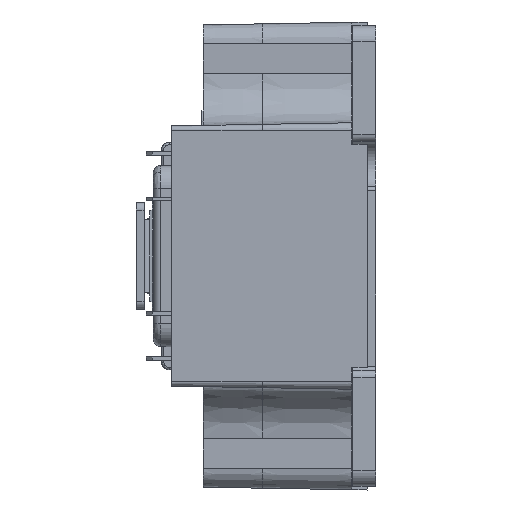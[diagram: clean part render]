
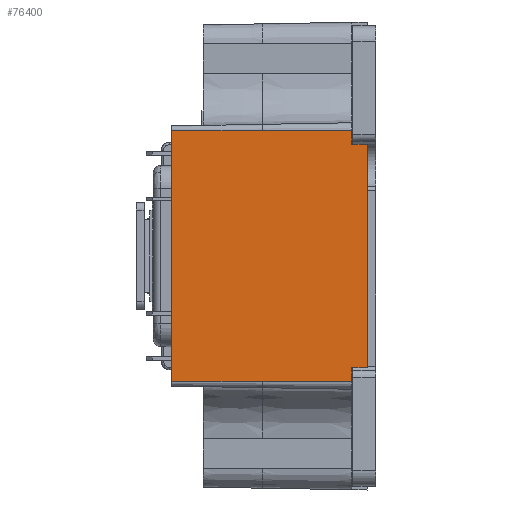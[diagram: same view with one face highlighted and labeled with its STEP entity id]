
A CAD part, left-side view. The second image highlights one B-rep face of the part: STEP entity #76400.
In plain terms, the highlighted planar face has unit normal (-1, 0.018, 0).
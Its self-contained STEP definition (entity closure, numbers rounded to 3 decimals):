
#827 = CARTESIAN_POINT ( 'NONE',  ( -53.235, 1.1, 12.02 ) ) ;
#2116 = VECTOR ( 'NONE', #16531, 1000. ) ;
#3255 = CARTESIAN_POINT ( 'NONE',  ( -53.2, 3.1, 16.5 ) ) ;
#5809 = CARTESIAN_POINT ( 'NONE',  ( -53.2, 3.1, 16.5 ) ) ;
#6253 = PLANE ( 'NONE',  #57920 ) ;
#8414 = ORIENTED_EDGE ( 'NONE', *, *, #66250, .T. ) ;
#8736 = ORIENTED_EDGE ( 'NONE', *, *, #39780, .T. ) ;
#8874 = CIRCLE ( 'NONE', #66620, 0.795 ) ;
#9252 = DIRECTION ( 'NONE',  ( 0., 0., 1. ) ) ;
#9642 = DIRECTION ( 'NONE',  ( 0., 0., 1. ) ) ;
#10403 = VECTOR ( 'NONE', #40062, 1000. ) ;
#12049 = CARTESIAN_POINT ( 'NONE',  ( -52.995, 14.85, 16.5 ) ) ;
#12130 = VERTEX_POINT ( 'NONE', #34443 ) ;
#12251 = LINE ( 'NONE', #28029, #10403 ) ;
#12338 = VECTOR ( 'NONE', #9642, 1000. ) ;
#15002 = LINE ( 'NONE', #21362, #73829 ) ;
#15466 = ORIENTED_EDGE ( 'NONE', *, *, #67148, .T. ) ;
#16330 = DIRECTION ( 'NONE',  ( -0.017, -1., 0. ) ) ;
#16531 = DIRECTION ( 'NONE',  ( 0., 0., 1. ) ) ;
#16676 = DIRECTION ( 'NONE',  ( 0.017, 1., -0.017 ) ) ;
#18071 = ORIENTED_EDGE ( 'NONE', *, *, #34222, .F. ) ;
#18992 = FACE_OUTER_BOUND ( 'NONE', #37037, .T. ) ;
#20108 = VERTEX_POINT ( 'NONE', #5809 ) ;
#20268 = DIRECTION ( 'NONE',  ( 0., 1., 0. ) ) ;
#20926 = VECTOR ( 'NONE', #16330, 1000. ) ;
#21362 = CARTESIAN_POINT ( 'NONE',  ( -53.199, 3.132, 14.671 ) ) ;
#21683 = CARTESIAN_POINT ( 'NONE',  ( -52.786, 26.8, 16.496 ) ) ;
#22815 = VERTEX_POINT ( 'NONE', #67024 ) ;
#23001 = VECTOR ( 'NONE', #16676, 1000. ) ;
#23879 = ORIENTED_EDGE ( 'NONE', *, *, #66939, .F. ) ;
#23926 = VERTEX_POINT ( 'NONE', #33441 ) ;
#23967 = VERTEX_POINT ( 'NONE', #31855 ) ;
#23992 = ORIENTED_EDGE ( 'NONE', *, *, #51048, .T. ) ;
#24908 = ORIENTED_EDGE ( 'NONE', *, *, #66031, .F. ) ;
#25510 = LINE ( 'NONE', #3255, #50881 ) ;
#25747 = EDGE_CURVE ( 'NONE', #22815, #50345, #58092, .T. ) ;
#27002 = CARTESIAN_POINT ( 'NONE',  ( -52.995, 14.85, -0.004 ) ) ;
#27411 = CARTESIAN_POINT ( 'NONE',  ( -53.235, 1.1, 14.635 ) ) ;
#27981 = LINE ( 'NONE', #38410, #67311 ) ;
#28029 = CARTESIAN_POINT ( 'NONE',  ( -53.2, 3.1, 16.5 ) ) ;
#29121 = EDGE_CURVE ( 'NONE', #12130, #63330, #77087, .T. ) ;
#29474 = CARTESIAN_POINT ( 'NONE',  ( -53.2, 3.1, -16.5 ) ) ;
#29970 = CARTESIAN_POINT ( 'NONE',  ( -52.995, 14.85, -16.5 ) ) ;
#30886 = LINE ( 'NONE', #827, #41197 ) ;
#31855 = CARTESIAN_POINT ( 'NONE',  ( -52.995, 14.85, -16.504 ) ) ;
#33441 = CARTESIAN_POINT ( 'NONE',  ( -53.2, 3.1, 14.67 ) ) ;
#33620 = VECTOR ( 'NONE', #39567, 1000. ) ;
#33956 = CARTESIAN_POINT ( 'NONE',  ( -53.2, 3.1, -14.67 ) ) ;
#34222 = EDGE_CURVE ( 'NONE', #56151, #20108, #27981, .T. ) ;
#34443 = CARTESIAN_POINT ( 'NONE',  ( -53.235, 1.1, -14.635 ) ) ;
#35387 = CARTESIAN_POINT ( 'NONE',  ( -52.995, 14.85, -0.004 ) ) ;
#37037 = EDGE_LOOP ( 'NONE', ( #23992, #8736, #8414, #66087, #59362, #23879, #15466, #74649, #18071, #24908, #37857, #42610 ) ) ;
#37857 = ORIENTED_EDGE ( 'NONE', *, *, #69301, .F. ) ;
#38410 = CARTESIAN_POINT ( 'NONE',  ( -53.2, 3.1, 16.5 ) ) ;
#39567 = DIRECTION ( 'NONE',  ( -0.017, -1., 0. ) ) ;
#39780 = EDGE_CURVE ( 'NONE', #23967, #72855, #45973, .T. ) ;
#40062 = DIRECTION ( 'NONE',  ( 0., 0., 1. ) ) ;
#41197 = VECTOR ( 'NONE', #71731, 1000. ) ;
#42610 = ORIENTED_EDGE ( 'NONE', *, *, #25747, .F. ) ;
#44828 = CARTESIAN_POINT ( 'NONE',  ( -52.995, 14.85, 16.496 ) ) ;
#45109 = DIRECTION ( 'NONE',  ( 0.017, 1., 0.017 ) ) ;
#45589 = EDGE_CURVE ( 'NONE', #61231, #63330, #25510, .T. ) ;
#45641 = CARTESIAN_POINT ( 'NONE',  ( -53.2, 3.1, -14.67 ) ) ;
#45973 = LINE ( 'NONE', #27002, #12338 ) ;
#47541 = VECTOR ( 'NONE', #65949, 1000. ) ;
#50345 = VERTEX_POINT ( 'NONE', #21683 ) ;
#50877 = CARTESIAN_POINT ( 'NONE',  ( -52.2, 14.85, 16.496 ) ) ;
#50881 = VECTOR ( 'NONE', #9252, 1000. ) ;
#51048 = EDGE_CURVE ( 'NONE', #22815, #23967, #63382, .T. ) ;
#51351 = VERTEX_POINT ( 'NONE', #27411 ) ;
#53768 = DIRECTION ( 'NONE',  ( -0.017, -1., 0. ) ) ;
#54954 = CARTESIAN_POINT ( 'NONE',  ( -52.995, 14.85, 16.496 ) ) ;
#56151 = VERTEX_POINT ( 'NONE', #12049 ) ;
#57920 = AXIS2_PLACEMENT_3D ( 'NONE', #35387, #58693, #53768 ) ;
#58092 = LINE ( 'NONE', #69233, #2116 ) ;
#58693 = DIRECTION ( 'NONE',  ( -1., 0.017, 0. ) ) ;
#59362 = ORIENTED_EDGE ( 'NONE', *, *, #29121, .F. ) ;
#61231 = VERTEX_POINT ( 'NONE', #29474 ) ;
#61700 = LINE ( 'NONE', #44828, #33620 ) ;
#63330 = VERTEX_POINT ( 'NONE', #33956 ) ;
#63382 = LINE ( 'NONE', #71851, #47541 ) ;
#65949 = DIRECTION ( 'NONE',  ( -0.017, -1., 0. ) ) ;
#66031 = EDGE_CURVE ( 'NONE', #68348, #56151, #8874, .T. ) ;
#66087 = ORIENTED_EDGE ( 'NONE', *, *, #45589, .T. ) ;
#66250 = EDGE_CURVE ( 'NONE', #72855, #61231, #74130, .T. ) ;
#66620 = AXIS2_PLACEMENT_3D ( 'NONE', #50877, #20268, #67783 ) ;
#66939 = EDGE_CURVE ( 'NONE', #51351, #12130, #30886, .T. ) ;
#67024 = CARTESIAN_POINT ( 'NONE',  ( -52.786, 26.8, -16.504 ) ) ;
#67148 = EDGE_CURVE ( 'NONE', #51351, #23926, #15002, .T. ) ;
#67311 = VECTOR ( 'NONE', #74144, 1000. ) ;
#67783 = DIRECTION ( 'NONE',  ( 0., 0., 1. ) ) ;
#68348 = VERTEX_POINT ( 'NONE', #54954 ) ;
#69233 = CARTESIAN_POINT ( 'NONE',  ( -52.786, 26.8, -0.004 ) ) ;
#69301 = EDGE_CURVE ( 'NONE', #50345, #68348, #61700, .T. ) ;
#71731 = DIRECTION ( 'NONE',  ( 0., 0., -1. ) ) ;
#71851 = CARTESIAN_POINT ( 'NONE',  ( -52.995, 14.85, -16.504 ) ) ;
#72855 = VERTEX_POINT ( 'NONE', #29970 ) ;
#73829 = VECTOR ( 'NONE', #45109, 1000. ) ;
#74130 = LINE ( 'NONE', #75760, #20926 ) ;
#74144 = DIRECTION ( 'NONE',  ( -0.017, -1., 0. ) ) ;
#74308 = EDGE_CURVE ( 'NONE', #23926, #20108, #12251, .T. ) ;
#74649 = ORIENTED_EDGE ( 'NONE', *, *, #74308, .T. ) ;
#75760 = CARTESIAN_POINT ( 'NONE',  ( -53.2, 3.1, -16.5 ) ) ;
#76400 = ADVANCED_FACE ( 'NONE', ( #18992 ), #6253, .T. ) ;
#77087 = LINE ( 'NONE', #45641, #23001 ) ;
